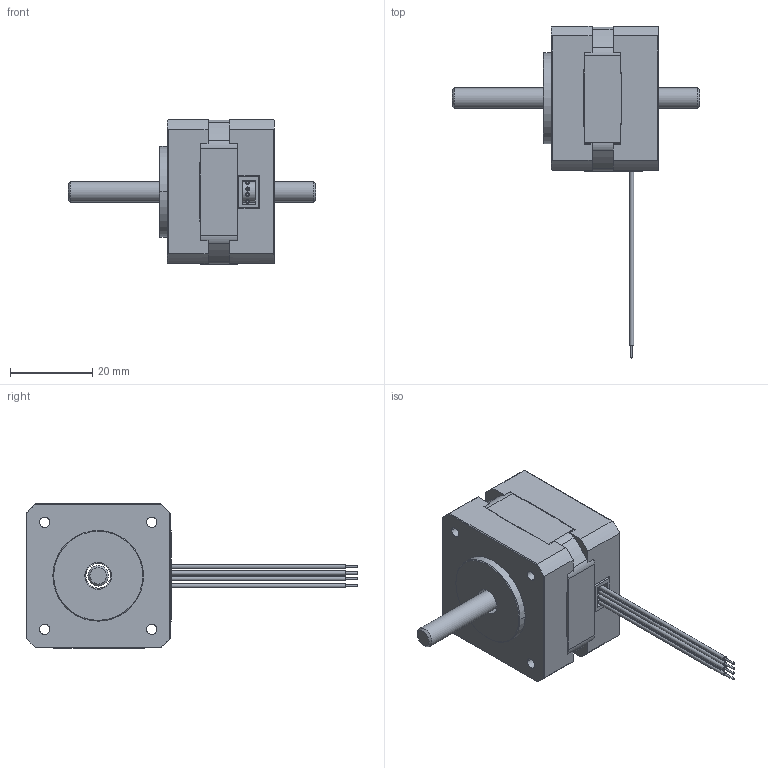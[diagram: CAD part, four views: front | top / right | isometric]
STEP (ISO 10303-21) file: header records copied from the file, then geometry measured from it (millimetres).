
FILE_DESCRIPTION( ('This file contains a STEP AP42 implementation' ,'as created by ZW3D STEP Interface translator.' ,'') ,'2;1' );
FILE_NAME( '35H26-0804B-XXX.stp' ,'26 114.162225', (''), ('ZWCAD Software Co.'), 'Version 1.0', 'ZW3D to STEP translator', '' );
FILE_SCHEMA(('AUTOMOTIVE_DESIGN { 1 0 10303 214 1 1 1 1 }'));
Length unit declared in the file: millimetre
Products named in the file (1): 0
Bounding box: 60 x 80.51 x 35.09 mm (x, y, z)
Volume: 15520.2 mm3; surface area: 15410.8 mm2
Topology: 6 solids, 6 shells, 458 faces, 1382 edges, 882 vertices
Faces by surface type: plane 266, cylinder 159, bspline 29, cone 4
Full cylindrical faces by diameter (mm): 0.5 x8, 1 x2, 1.2 x8, 3.2 x4, 3.4 x4, 5 x1, 5.8 x4, 6 x1, 6.5 x1, 27.79 x1
Entity records: 16821 total; most frequent: CARTESIAN_POINT 3566, ORIENTED_EDGE 2764, DIRECTION 2679, EDGE_CURVE 1382, AXIS2_PLACEMENT_3D 912, VERTEX_POINT 882, VECTOR 855, LINE 855
